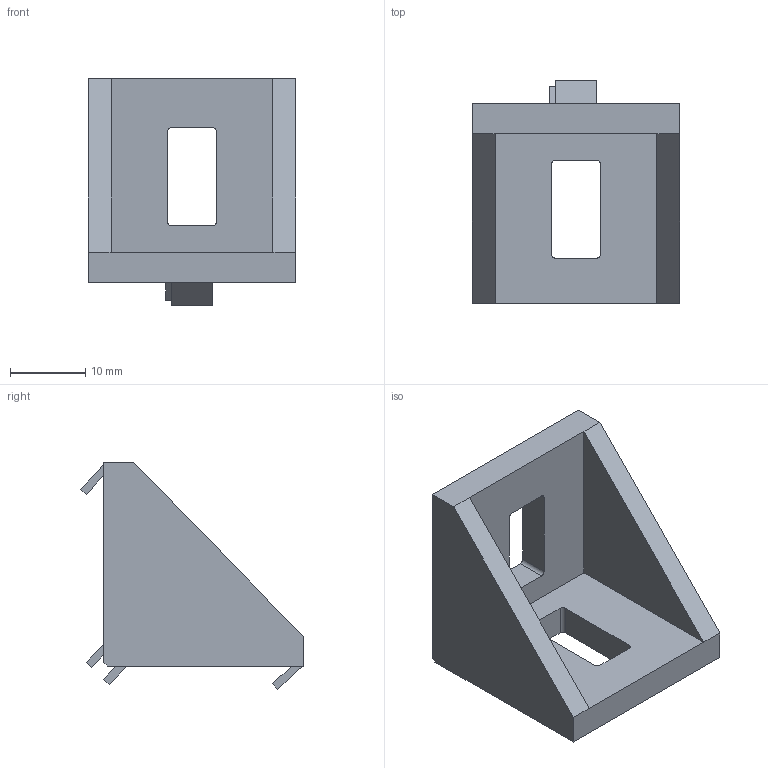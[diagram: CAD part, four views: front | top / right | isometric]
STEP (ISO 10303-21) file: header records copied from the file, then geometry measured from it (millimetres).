
FILE_DESCRIPTION (( 'STEP AP203' ), '1' );
FILE_NAME ('1037.STEP', '2016-03-22T14:55:28', ( '' ), ( '' ), 'SwSTEP 2.0', 'SolidWorks 2014', '' );
FILE_SCHEMA (( 'CONFIG_CONTROL_DESIGN' ));
Length unit declared in the file: millimetre
Products named in the file (1): 1037
Bounding box: 27.5 x 29.55 x 30.07 mm (x, y, z)
Volume: 5514.6 mm3; surface area: 4831.6 mm2
Topology: 1 solids, 1 shells, 107 faces, 281 edges, 186 vertices
Faces by surface type: plane 79, cylinder 28
Entity records: 3324 total; most frequent: CARTESIAN_POINT 707, ORIENTED_EDGE 562, DIRECTION 469, EDGE_CURVE 281, LINE 221, VECTOR 221, VERTEX_POINT 186, AXIS2_PLACEMENT_3D 124
